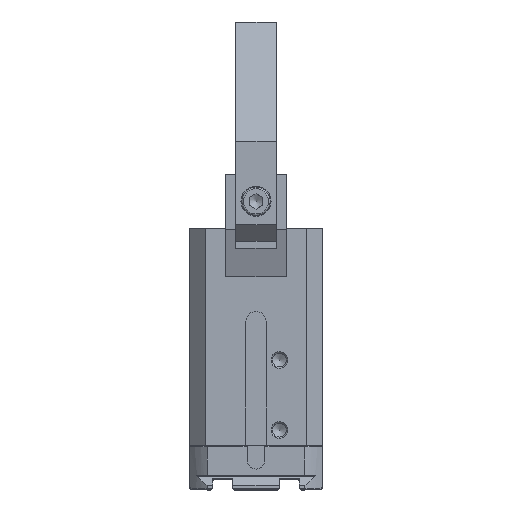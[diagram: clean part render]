
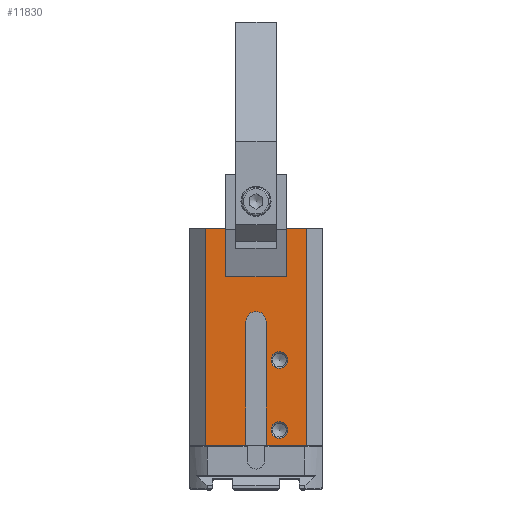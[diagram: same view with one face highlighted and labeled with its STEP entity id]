
A CAD part, top view. The second image highlights one B-rep face of the part: STEP entity #11830.
In plain terms, the highlighted planar face has unit normal (0, 0, 1).
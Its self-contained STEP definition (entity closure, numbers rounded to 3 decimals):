
#731=FACE_BOUND('',#2313,.T.);
#732=FACE_BOUND('',#2314,.T.);
#889=CIRCLE('',#12806,2.5);
#892=CIRCLE('',#12812,2.5);
#907=CIRCLE('',#12857,3.);
#1587=FACE_OUTER_BOUND('',#2312,.T.);
#2312=EDGE_LOOP('',(#10358,#10359,#10360,#10361,#10362,#10363,#10364,#10365,
#10366,#10367,#10368,#10369));
#2313=EDGE_LOOP('',(#10370));
#2314=EDGE_LOOP('',(#10371));
#3284=LINE('',#19986,#4458);
#3289=LINE('',#19997,#4463);
#3291=LINE('',#20000,#4465);
#3363=LINE('',#20214,#4537);
#3370=LINE('',#20224,#4544);
#3429=LINE('',#20379,#4603);
#3433=LINE('',#20387,#4607);
#3437=LINE('',#20404,#4611);
#3441=LINE('',#20415,#4615);
#3443=LINE('',#20419,#4617);
#3444=LINE('',#20420,#4618);
#4458=VECTOR('',#14924,10.);
#4463=VECTOR('',#14933,10.);
#4465=VECTOR('',#14937,10.);
#4537=VECTOR('',#15159,10.);
#4544=VECTOR('',#15166,10.);
#4603=VECTOR('',#15319,10.);
#4607=VECTOR('',#15323,10.);
#4611=VECTOR('',#15339,10.);
#4615=VECTOR('',#15351,10.);
#4617=VECTOR('',#15357,10.);
#4618=VECTOR('',#15358,10.);
#5604=VERTEX_POINT('',#19980);
#5606=VERTEX_POINT('',#19984);
#5609=VERTEX_POINT('',#19994);
#5610=VERTEX_POINT('',#19996);
#5677=VERTEX_POINT('',#20213);
#5680=VERTEX_POINT('',#20222);
#5683=VERTEX_POINT('',#20231);
#5687=VERTEX_POINT('',#20244);
#5728=VERTEX_POINT('',#20376);
#5729=VERTEX_POINT('',#20378);
#5732=VERTEX_POINT('',#20384);
#5733=VERTEX_POINT('',#20386);
#5740=VERTEX_POINT('',#20403);
#5742=VERTEX_POINT('',#20409);
#7115=EDGE_CURVE('',#5604,#5606,#3284,.T.);
#7120=EDGE_CURVE('',#5610,#5609,#3289,.T.);
#7122=EDGE_CURVE('',#5606,#5610,#3291,.T.);
#7222=EDGE_CURVE('',#5604,#5677,#3363,.T.);
#7229=EDGE_CURVE('',#5680,#5609,#3370,.T.);
#7232=EDGE_CURVE('',#5683,#5683,#889,.T.);
#7238=EDGE_CURVE('',#5687,#5687,#892,.T.);
#7302=EDGE_CURVE('',#5728,#5729,#3429,.T.);
#7306=EDGE_CURVE('',#5732,#5733,#3433,.T.);
#7315=EDGE_CURVE('',#5740,#5729,#3437,.T.);
#7318=EDGE_CURVE('',#5742,#5740,#907,.T.);
#7321=EDGE_CURVE('',#5732,#5742,#3441,.T.);
#7323=EDGE_CURVE('',#5680,#5733,#3443,.T.);
#7324=EDGE_CURVE('',#5677,#5728,#3444,.T.);
#10358=ORIENTED_EDGE('',*,*,#7120,.T.);
#10359=ORIENTED_EDGE('',*,*,#7229,.F.);
#10360=ORIENTED_EDGE('',*,*,#7323,.T.);
#10361=ORIENTED_EDGE('',*,*,#7306,.F.);
#10362=ORIENTED_EDGE('',*,*,#7321,.T.);
#10363=ORIENTED_EDGE('',*,*,#7318,.T.);
#10364=ORIENTED_EDGE('',*,*,#7315,.T.);
#10365=ORIENTED_EDGE('',*,*,#7302,.F.);
#10366=ORIENTED_EDGE('',*,*,#7324,.F.);
#10367=ORIENTED_EDGE('',*,*,#7222,.F.);
#10368=ORIENTED_EDGE('',*,*,#7115,.T.);
#10369=ORIENTED_EDGE('',*,*,#7122,.T.);
#10370=ORIENTED_EDGE('',*,*,#7232,.T.);
#10371=ORIENTED_EDGE('',*,*,#7238,.T.);
#11225=PLANE('',#12861);
#11830=ADVANCED_FACE('',(#1587,#731,#732),#11225,.T.);
#12806=AXIS2_PLACEMENT_3D('',#20232,#15174,#15175);
#12812=AXIS2_PLACEMENT_3D('',#20245,#15189,#15190);
#12857=AXIS2_PLACEMENT_3D('',#20410,#15344,#15345);
#12861=AXIS2_PLACEMENT_3D('',#20418,#15355,#15356);
#14924=DIRECTION('',(0.,-1.,0.));
#14933=DIRECTION('',(0.,1.,0.));
#14937=DIRECTION('',(-1.,0.,0.));
#15159=DIRECTION('',(1.,0.,0.));
#15166=DIRECTION('',(1.,0.,0.));
#15174=DIRECTION('center_axis',(0.,0.,-1.));
#15175=DIRECTION('ref_axis',(1.,0.,0.));
#15189=DIRECTION('center_axis',(0.,0.,-1.));
#15190=DIRECTION('ref_axis',(1.,0.,0.));
#15319=DIRECTION('',(-1.,0.,0.));
#15323=DIRECTION('',(-1.,0.,0.));
#15339=DIRECTION('',(0.,-1.,0.));
#15344=DIRECTION('center_axis',(0.,0.,-1.));
#15345=DIRECTION('ref_axis',(0.,1.,0.));
#15351=DIRECTION('',(0.,1.,0.));
#15355=DIRECTION('center_axis',(0.,0.,1.));
#15356=DIRECTION('ref_axis',(-1.,0.,0.));
#15357=DIRECTION('',(0.,-1.,0.));
#15358=DIRECTION('',(0.,-1.,0.));
#19980=CARTESIAN_POINT('',(9.,65.,20.));
#19984=CARTESIAN_POINT('',(9.,50.5,20.));
#19986=CARTESIAN_POINT('',(9.,65.,20.));
#19994=CARTESIAN_POINT('',(-9.,65.,20.));
#19996=CARTESIAN_POINT('',(-9.,50.5,20.));
#19997=CARTESIAN_POINT('',(-9.,65.,20.));
#20000=CARTESIAN_POINT('',(7.5,50.5,20.));
#20213=CARTESIAN_POINT('',(15.,65.,20.));
#20214=CARTESIAN_POINT('',(-15.,65.,20.));
#20222=CARTESIAN_POINT('',(-15.,65.,20.));
#20224=CARTESIAN_POINT('',(-15.,65.,20.));
#20231=CARTESIAN_POINT('',(4.5,25.5,20.));
#20232=CARTESIAN_POINT('Origin',(7.,25.5,20.));
#20244=CARTESIAN_POINT('',(4.5,4.5,20.));
#20245=CARTESIAN_POINT('Origin',(7.,4.5,20.));
#20376=CARTESIAN_POINT('',(15.,0.,20.));
#20378=CARTESIAN_POINT('',(3.,0.,20.));
#20379=CARTESIAN_POINT('',(-15.,0.,20.));
#20384=CARTESIAN_POINT('',(-3.,0.,20.));
#20386=CARTESIAN_POINT('',(-15.,0.,20.));
#20387=CARTESIAN_POINT('',(-15.,0.,20.));
#20403=CARTESIAN_POINT('',(3.,37.,20.));
#20404=CARTESIAN_POINT('',(3.,51.,20.));
#20409=CARTESIAN_POINT('',(-3.,37.,20.));
#20410=CARTESIAN_POINT('Origin',(0.,37.,
20.));
#20415=CARTESIAN_POINT('',(-3.,32.5,20.));
#20418=CARTESIAN_POINT('Origin',(15.,65.,20.));
#20419=CARTESIAN_POINT('',(-15.,65.,20.));
#20420=CARTESIAN_POINT('',(15.,65.,20.));
